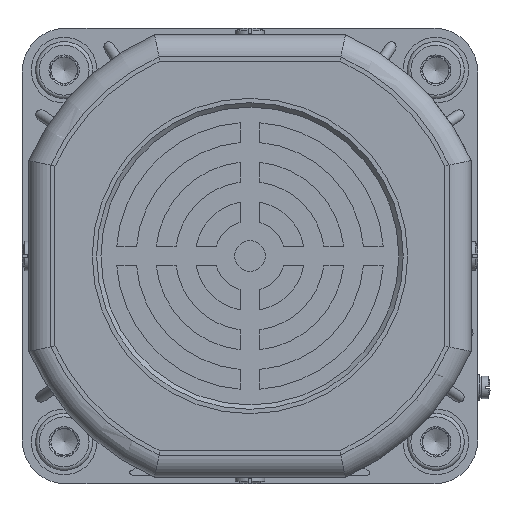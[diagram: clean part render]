
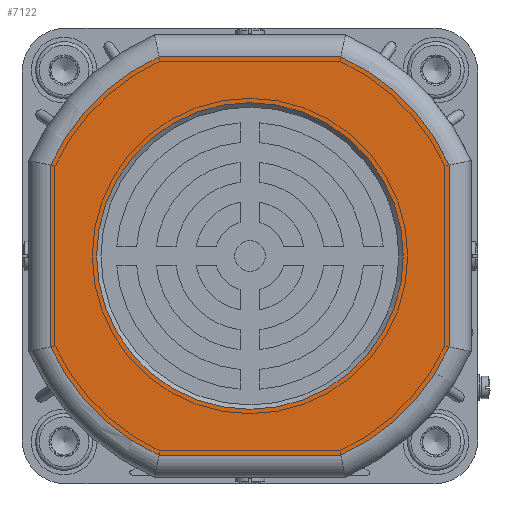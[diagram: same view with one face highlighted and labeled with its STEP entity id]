
A CAD part, left-side view. The second image highlights one B-rep face of the part: STEP entity #7122.
In plain terms, the highlighted planar face has unit normal (-1, 0, 0).
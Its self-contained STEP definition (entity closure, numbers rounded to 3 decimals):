
#832=LINE('',#38241,#2178);
#833=LINE('',#38246,#2179);
#834=LINE('',#38250,#2180);
#835=LINE('',#38254,#2181);
#2178=VECTOR('',#31074,1.);
#2179=VECTOR('',#31077,1.);
#2180=VECTOR('',#31080,1.);
#2181=VECTOR('',#31083,1.);
#7122=ADVANCED_FACE('',(#9346,#9347),#8673,.F.);
#8673=PLANE('',#28087);
#9346=FACE_BOUND('',#10139,.T.);
#9347=FACE_BOUND('',#10140,.T.);
#10139=EDGE_LOOP('',(#12454,#12455,#12456,#12457,#12458,#12459,#12460,#12461));
#10140=EDGE_LOOP('',(#12462));
#12454=ORIENTED_EDGE('',*,*,#22583,.T.);
#12455=ORIENTED_EDGE('',*,*,#22584,.T.);
#12456=ORIENTED_EDGE('',*,*,#22585,.T.);
#12457=ORIENTED_EDGE('',*,*,#22586,.T.);
#12458=ORIENTED_EDGE('',*,*,#22587,.T.);
#12459=ORIENTED_EDGE('',*,*,#22588,.T.);
#12460=ORIENTED_EDGE('',*,*,#22589,.T.);
#12461=ORIENTED_EDGE('',*,*,#22590,.T.);
#12462=ORIENTED_EDGE('',*,*,#22591,.T.);
#19935=VERTEX_POINT('',#38242);
#19936=VERTEX_POINT('',#38243);
#19937=VERTEX_POINT('',#38245);
#19938=VERTEX_POINT('',#38247);
#19939=VERTEX_POINT('',#38249);
#19940=VERTEX_POINT('',#38251);
#19941=VERTEX_POINT('',#38253);
#19942=VERTEX_POINT('',#38255);
#19943=VERTEX_POINT('',#38258);
#22583=EDGE_CURVE('',#19935,#19936,#832,.T.);
#22584=EDGE_CURVE('',#19936,#19937,#26669,.T.);
#22585=EDGE_CURVE('',#19937,#19938,#833,.T.);
#22586=EDGE_CURVE('',#19938,#19939,#26670,.T.);
#22587=EDGE_CURVE('',#19939,#19940,#834,.T.);
#22588=EDGE_CURVE('',#19940,#19941,#26671,.T.);
#22589=EDGE_CURVE('',#19941,#19942,#835,.T.);
#22590=EDGE_CURVE('',#19942,#19935,#26672,.T.);
#22591=EDGE_CURVE('',#19943,#19943,#26673,.T.);
#26669=CIRCLE('',#28082,50.);
#26670=CIRCLE('',#28083,50.);
#26671=CIRCLE('',#28084,50.);
#26672=CIRCLE('',#28085,50.);
#26673=CIRCLE('',#28086,35.);
#28082=AXIS2_PLACEMENT_3D('',#38244,#31075,#31076);
#28083=AXIS2_PLACEMENT_3D('',#38248,#31078,#31079);
#28084=AXIS2_PLACEMENT_3D('',#38252,#31081,#31082);
#28085=AXIS2_PLACEMENT_3D('',#38256,#31084,#31085);
#28086=AXIS2_PLACEMENT_3D('',#38257,#31086,#31087);
#28087=AXIS2_PLACEMENT_3D('',#38259,#31088,#31089);
#31074=DIRECTION('',(0.,-1.,0.));
#31075=DIRECTION('',(-1.,0.,0.));
#31076=DIRECTION('',(0.,0.,1.));
#31077=DIRECTION('',(0.,0.,1.));
#31078=DIRECTION('',(-1.,0.,0.));
#31079=DIRECTION('',(0.,0.,1.));
#31080=DIRECTION('',(0.,1.,0.));
#31081=DIRECTION('',(-1.,0.,0.));
#31082=DIRECTION('',(0.,0.,1.));
#31083=DIRECTION('',(0.,0.,-1.));
#31084=DIRECTION('',(-1.,0.,0.));
#31085=DIRECTION('',(0.,0.,1.));
#31086=DIRECTION('',(1.,0.,0.));
#31087=DIRECTION('',(0.,-1.,0.));
#31088=DIRECTION('',(1.,0.,0.));
#31089=DIRECTION('',(0.,0.,1.));
#38241=CARTESIAN_POINT('',(-251.8,-142.46,-103.991));
#38242=CARTESIAN_POINT('',(-251.8,-99.941,-103.991));
#38243=CARTESIAN_POINT('',(-251.8,-141.402,-103.991));
#38244=CARTESIAN_POINT('',(-251.8,-120.671,-58.491));
#38245=CARTESIAN_POINT('',(-251.8,-166.171,-79.221));
#38246=CARTESIAN_POINT('',(-251.8,-166.171,-36.702));
#38247=CARTESIAN_POINT('',(-251.8,-166.171,-37.76));
#38248=CARTESIAN_POINT('',(-251.8,-120.671,-58.491));
#38249=CARTESIAN_POINT('',(-251.8,-141.402,-12.991));
#38250=CARTESIAN_POINT('',(-251.8,-98.882,-12.991));
#38251=CARTESIAN_POINT('',(-251.8,-99.941,-12.991));
#38252=CARTESIAN_POINT('',(-251.8,-120.671,-58.491));
#38253=CARTESIAN_POINT('',(-251.8,-75.171,-37.76));
#38254=CARTESIAN_POINT('',(-251.8,-75.171,-80.28));
#38255=CARTESIAN_POINT('',(-251.8,-75.171,-79.221));
#38256=CARTESIAN_POINT('',(-251.8,-120.671,-58.491));
#38257=CARTESIAN_POINT('',(-251.8,-120.671,-58.491));
#38258=CARTESIAN_POINT('',(-251.8,-155.671,-58.491));
#38259=CARTESIAN_POINT('',(-251.8,-120.671,-58.491));
